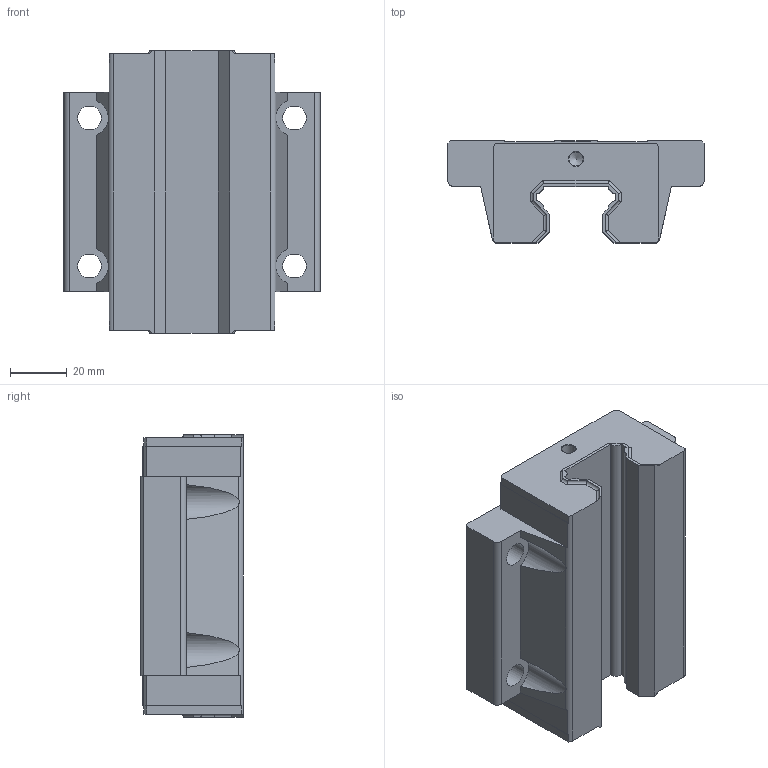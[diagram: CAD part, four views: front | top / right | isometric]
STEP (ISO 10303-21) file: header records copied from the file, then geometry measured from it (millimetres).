
FILE_DESCRIPTION(/* description */ (''),/* implementation_level */ '2;1');
FILE_NAME(/* name */ 'C:\Users\daviddillkoetter\ownCloud\Kamp und Kötter\Artikel\KPN_Profilführungen\Step\KPNW-30X-FS.stp',/* time_stamp */ '2021-01-27T16:39:52+01:00',/* author */ ('daviddillkoetter'),/* organization */ (''),/* preprocessor_version */ 'ST-DEVELOPER v18.1',/* originating_system */ 'Autodesk Inventor 2021',/* authorisation */ '');
FILE_SCHEMA (('AUTOMOTIVE_DESIGN { 1 0 10303 214 3 1 1 }'));
Length unit declared in the file: millimetre
Products named in the file (1): KPNW-F
Bounding box: 90 x 36 x 99.2 mm (x, y, z)
Volume: 194607.2 mm3; surface area: 32906.7 mm2
Topology: 1 solids, 1 shells, 116 faces, 336 edges, 222 vertices
Faces by surface type: plane 68, cylinder 40, cone 8
Full cylindrical faces by diameter (mm): 4.917 x2, 8.376 x4
Entity records: 3992 total; most frequent: CARTESIAN_POINT 711, ORIENTED_EDGE 668, DIRECTION 644, EDGE_CURVE 334, LINE 250, VECTOR 250, VERTEX_POINT 222, AXIS2_PLACEMENT_3D 197
